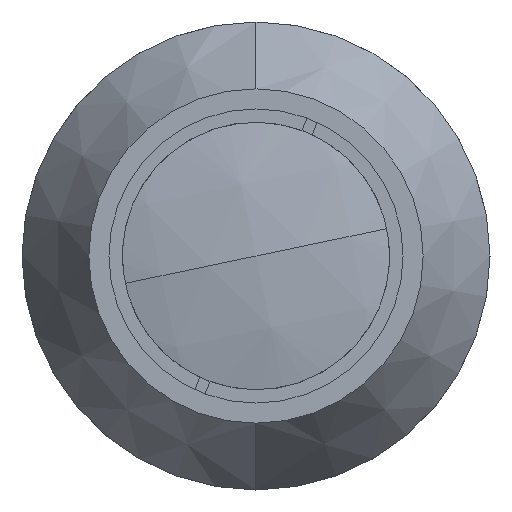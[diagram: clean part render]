
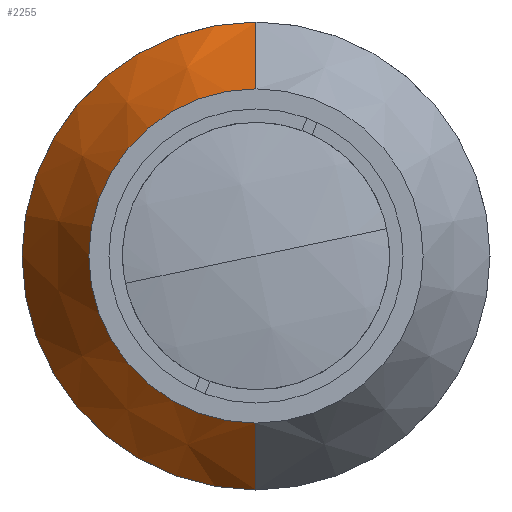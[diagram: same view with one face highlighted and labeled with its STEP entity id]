
A CAD part, left-side view. The second image highlights one B-rep face of the part: STEP entity #2255.
In plain terms, the highlighted conical face has half-angle 30 degrees and reference radius 21 mm.
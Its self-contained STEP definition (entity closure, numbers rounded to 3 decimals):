
#71 = LINE ( 'NONE', #1561, #3174 ) ;
#116 = DIRECTION ( 'NONE',  ( 0.866, 0., -0.5 ) ) ;
#128 = AXIS2_PLACEMENT_3D ( 'NONE', #3105, #1280, #3382 ) ;
#172 = CIRCLE ( 'NONE', #306, 21. ) ;
#306 = AXIS2_PLACEMENT_3D ( 'NONE', #3528, #1708, #3808 ) ;
#419 = CONICAL_SURFACE ( 'NONE', #1671, 21., 0.524 ) ;
#429 = ORIENTED_EDGE ( 'NONE', *, *, #1254, .F. ) ;
#885 = ORIENTED_EDGE ( 'NONE', *, *, #1213, .F. ) ;
#932 = EDGE_CURVE ( 'NONE', #2594, #1260, #172, .T. ) ;
#1084 = CARTESIAN_POINT ( 'NONE',  ( 15., 0., -15. ) ) ;
#1213 = EDGE_CURVE ( 'NONE', #2141, #2724, #1729, .T. ) ;
#1215 = VECTOR ( 'NONE', #116, 1000. ) ;
#1226 = EDGE_CURVE ( 'NONE', #2141, #2594, #71, .T. ) ;
#1254 = EDGE_CURVE ( 'NONE', #2724, #1260, #1630, .T. ) ;
#1260 = VERTEX_POINT ( 'NONE', #2818 ) ;
#1280 = DIRECTION ( 'NONE',  ( -1., 0., 0. ) ) ;
#1402 = ORIENTED_EDGE ( 'NONE', *, *, #1226, .T. ) ;
#1490 = EDGE_LOOP ( 'NONE', ( #885, #1402, #2652, #429 ) ) ;
#1557 = FACE_OUTER_BOUND ( 'NONE', #1490, .T. ) ;
#1561 = CARTESIAN_POINT ( 'NONE',  ( 25.392, 0., 21. ) ) ;
#1630 = LINE ( 'NONE', #3683, #1215 ) ;
#1636 = DIRECTION ( 'NONE',  ( 1., 0., 0. ) ) ;
#1671 = AXIS2_PLACEMENT_3D ( 'NONE', #1937, #1636, #3171 ) ;
#1708 = DIRECTION ( 'NONE',  ( -1., 0., 0. ) ) ;
#1729 = CIRCLE ( 'NONE', #128, 15. ) ;
#1937 = CARTESIAN_POINT ( 'NONE',  ( 25.392, 0., 0. ) ) ;
#2141 = VERTEX_POINT ( 'NONE', #3823 ) ;
#2255 = ADVANCED_FACE ( 'NONE', ( #1557 ), #419, .T. ) ;
#2473 = DIRECTION ( 'NONE',  ( 0.866, 0., 0.5 ) ) ;
#2594 = VERTEX_POINT ( 'NONE', #3658 ) ;
#2652 = ORIENTED_EDGE ( 'NONE', *, *, #932, .T. ) ;
#2724 = VERTEX_POINT ( 'NONE', #1084 ) ;
#2818 = CARTESIAN_POINT ( 'NONE',  ( 25.392, 0., -21. ) ) ;
#3105 = CARTESIAN_POINT ( 'NONE',  ( 15., 0., 0. ) ) ;
#3171 = DIRECTION ( 'NONE',  ( 0., 0., -1. ) ) ;
#3174 = VECTOR ( 'NONE', #2473, 1000. ) ;
#3382 = DIRECTION ( 'NONE',  ( 0., 0., 1. ) ) ;
#3528 = CARTESIAN_POINT ( 'NONE',  ( 25.392, 0., 0. ) ) ;
#3658 = CARTESIAN_POINT ( 'NONE',  ( 25.392, 0., 21. ) ) ;
#3683 = CARTESIAN_POINT ( 'NONE',  ( 25.392, 0., -21. ) ) ;
#3808 = DIRECTION ( 'NONE',  ( 0., 0., 1. ) ) ;
#3823 = CARTESIAN_POINT ( 'NONE',  ( 15., 0., 15. ) ) ;
